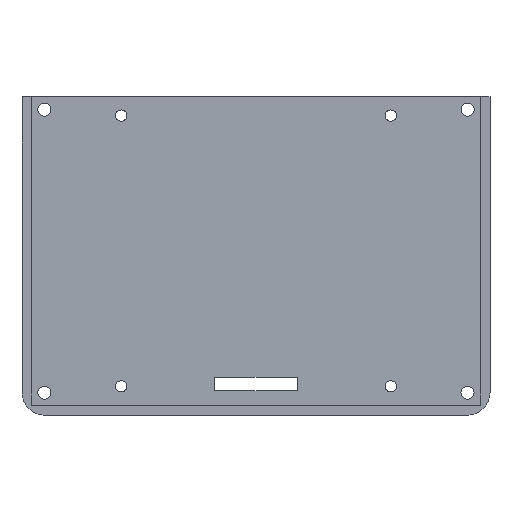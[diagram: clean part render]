
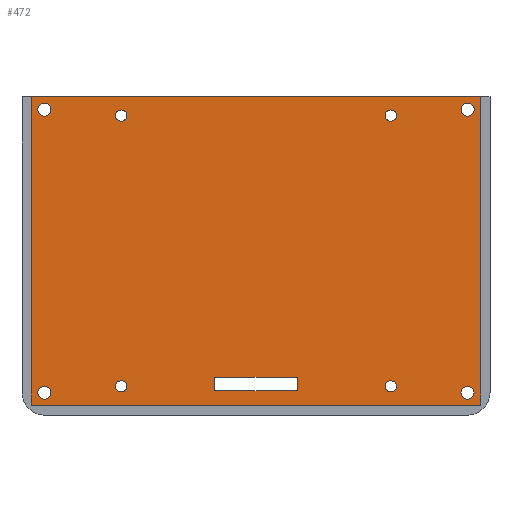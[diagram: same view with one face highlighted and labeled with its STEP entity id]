
A CAD part, top view. The second image highlights one B-rep face of the part: STEP entity #472.
In plain terms, the highlighted planar face has unit normal (0, 0, 1).
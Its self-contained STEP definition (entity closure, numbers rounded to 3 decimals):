
#24=PLANE('',#536);
#44=LINE('',#752,#82);
#47=LINE('',#758,#85);
#50=LINE('',#764,#88);
#53=LINE('',#768,#91);
#55=LINE('',#773,#93);
#58=LINE('',#779,#96);
#60=LINE('',#782,#98);
#61=LINE('',#784,#99);
#82=VECTOR('',#624,10.);
#85=VECTOR('',#629,10.);
#88=VECTOR('',#634,10.);
#91=VECTOR('',#639,10.);
#93=VECTOR('',#643,10.);
#96=VECTOR('',#648,10.);
#98=VECTOR('',#652,10.);
#99=VECTOR('',#655,10.);
#113=FACE_BOUND('',#183,.T.);
#114=FACE_BOUND('',#184,.T.);
#115=FACE_BOUND('',#185,.T.);
#116=FACE_BOUND('',#186,.T.);
#117=FACE_BOUND('',#187,.T.);
#118=FACE_BOUND('',#188,.T.);
#119=FACE_BOUND('',#189,.T.);
#120=FACE_BOUND('',#190,.T.);
#121=FACE_BOUND('',#191,.T.);
#150=FACE_OUTER_BOUND('',#182,.T.);
#182=EDGE_LOOP('',(#393,#394,#395,#396));
#183=EDGE_LOOP('',(#397));
#184=EDGE_LOOP('',(#398));
#185=EDGE_LOOP('',(#399));
#186=EDGE_LOOP('',(#400));
#187=EDGE_LOOP('',(#401));
#188=EDGE_LOOP('',(#402));
#189=EDGE_LOOP('',(#403));
#190=EDGE_LOOP('',(#404));
#191=EDGE_LOOP('',(#405,#406,#407,#408));
#206=CIRCLE('',#499,1.75);
#208=CIRCLE('',#502,1.75);
#210=CIRCLE('',#505,1.75);
#212=CIRCLE('',#508,1.75);
#218=CIRCLE('',#519,1.5);
#220=CIRCLE('',#522,1.5);
#222=CIRCLE('',#525,1.5);
#224=CIRCLE('',#528,1.5);
#226=VERTEX_POINT('',#673);
#228=VERTEX_POINT('',#678);
#230=VERTEX_POINT('',#683);
#232=VERTEX_POINT('',#688);
#248=VERTEX_POINT('',#728);
#250=VERTEX_POINT('',#733);
#252=VERTEX_POINT('',#738);
#254=VERTEX_POINT('',#743);
#257=VERTEX_POINT('',#749);
#258=VERTEX_POINT('',#751);
#260=VERTEX_POINT('',#757);
#262=VERTEX_POINT('',#763);
#263=VERTEX_POINT('',#770);
#264=VERTEX_POINT('',#772);
#265=VERTEX_POINT('',#776);
#266=VERTEX_POINT('',#778);
#270=EDGE_CURVE('',#226,#226,#206,.T.);
#272=EDGE_CURVE('',#228,#228,#208,.T.);
#274=EDGE_CURVE('',#230,#230,#210,.T.);
#276=EDGE_CURVE('',#232,#232,#212,.T.);
#295=EDGE_CURVE('',#248,#248,#218,.T.);
#297=EDGE_CURVE('',#250,#250,#220,.T.);
#299=EDGE_CURVE('',#252,#252,#222,.T.);
#301=EDGE_CURVE('',#254,#254,#224,.T.);
#304=EDGE_CURVE('',#258,#257,#44,.T.);
#307=EDGE_CURVE('',#260,#258,#47,.T.);
#310=EDGE_CURVE('',#262,#260,#50,.T.);
#313=EDGE_CURVE('',#257,#262,#53,.T.);
#315=EDGE_CURVE('',#264,#263,#55,.T.);
#318=EDGE_CURVE('',#266,#265,#58,.T.);
#320=EDGE_CURVE('',#263,#266,#60,.T.);
#321=EDGE_CURVE('',#265,#264,#61,.T.);
#393=ORIENTED_EDGE('',*,*,#320,.T.);
#394=ORIENTED_EDGE('',*,*,#318,.T.);
#395=ORIENTED_EDGE('',*,*,#321,.T.);
#396=ORIENTED_EDGE('',*,*,#315,.T.);
#397=ORIENTED_EDGE('',*,*,#270,.T.);
#398=ORIENTED_EDGE('',*,*,#272,.T.);
#399=ORIENTED_EDGE('',*,*,#274,.T.);
#400=ORIENTED_EDGE('',*,*,#276,.T.);
#401=ORIENTED_EDGE('',*,*,#295,.T.);
#402=ORIENTED_EDGE('',*,*,#297,.T.);
#403=ORIENTED_EDGE('',*,*,#299,.T.);
#404=ORIENTED_EDGE('',*,*,#301,.T.);
#405=ORIENTED_EDGE('',*,*,#310,.T.);
#406=ORIENTED_EDGE('',*,*,#307,.T.);
#407=ORIENTED_EDGE('',*,*,#304,.T.);
#408=ORIENTED_EDGE('',*,*,#313,.T.);
#472=ADVANCED_FACE('',(#150,#113,#114,#115,#116,#117,#118,#119,#120,#121),
#24,.T.);
#499=AXIS2_PLACEMENT_3D('',#674,#547,#548);
#502=AXIS2_PLACEMENT_3D('',#679,#553,#554);
#505=AXIS2_PLACEMENT_3D('',#684,#559,#560);
#508=AXIS2_PLACEMENT_3D('',#689,#565,#566);
#519=AXIS2_PLACEMENT_3D('',#729,#600,#601);
#522=AXIS2_PLACEMENT_3D('',#734,#606,#607);
#525=AXIS2_PLACEMENT_3D('',#739,#612,#613);
#528=AXIS2_PLACEMENT_3D('',#744,#618,#619);
#536=AXIS2_PLACEMENT_3D('',#783,#653,#654);
#547=DIRECTION('center_axis',(0.,0.,-1.));
#548=DIRECTION('ref_axis',(-1.,0.,0.));
#553=DIRECTION('center_axis',(0.,0.,-1.));
#554=DIRECTION('ref_axis',(-1.,0.,0.));
#559=DIRECTION('center_axis',(0.,0.,-1.));
#560=DIRECTION('ref_axis',(-1.,0.,0.));
#565=DIRECTION('center_axis',(0.,0.,-1.));
#566=DIRECTION('ref_axis',(-1.,0.,0.));
#600=DIRECTION('center_axis',(0.,0.,-1.));
#601=DIRECTION('ref_axis',(-1.,0.,0.));
#606=DIRECTION('center_axis',(0.,0.,-1.));
#607=DIRECTION('ref_axis',(-1.,0.,0.));
#612=DIRECTION('center_axis',(0.,0.,-1.));
#613=DIRECTION('ref_axis',(-1.,0.,0.));
#618=DIRECTION('center_axis',(0.,0.,-1.));
#619=DIRECTION('ref_axis',(-1.,0.,0.));
#624=DIRECTION('',(0.,-1.,0.));
#629=DIRECTION('',(1.,0.,0.));
#634=DIRECTION('',(0.,1.,0.));
#639=DIRECTION('',(-1.,0.,0.));
#643=DIRECTION('',(0.,-1.,0.));
#648=DIRECTION('',(0.,1.,0.));
#652=DIRECTION('',(1.,0.,0.));
#653=DIRECTION('center_axis',(0.,0.,1.));
#654=DIRECTION('ref_axis',(1.,0.,0.));
#655=DIRECTION('',(-1.,0.,0.));
#673=CARTESIAN_POINT('',(120.75,5.985,2.));
#674=CARTESIAN_POINT('Origin',(119.,5.985,2.));
#678=CARTESIAN_POINT('',(7.735,5.985,2.));
#679=CARTESIAN_POINT('Origin',(5.985,5.985,2.));
#683=CARTESIAN_POINT('',(7.735,81.585,2.));
#684=CARTESIAN_POINT('Origin',(5.985,81.585,2.));
#688=CARTESIAN_POINT('',(120.765,81.585,2.));
#689=CARTESIAN_POINT('Origin',(119.015,81.585,2.));
#728=CARTESIAN_POINT('',(100.,80.,2.));
#729=CARTESIAN_POINT('Origin',(98.5,80.,2.));
#733=CARTESIAN_POINT('',(28.,80.,2.));
#734=CARTESIAN_POINT('Origin',(26.5,80.,2.));
#738=CARTESIAN_POINT('',(28.,7.7,2.));
#739=CARTESIAN_POINT('Origin',(26.5,7.7,2.));
#743=CARTESIAN_POINT('',(100.,7.7,2.));
#744=CARTESIAN_POINT('Origin',(98.5,7.7,2.));
#749=CARTESIAN_POINT('',(73.5,6.55,2.));
#751=CARTESIAN_POINT('',(73.5,10.05,2.));
#752=CARTESIAN_POINT('',(73.5,26.95,2.));
#757=CARTESIAN_POINT('',(51.5,10.05,2.));
#758=CARTESIAN_POINT('',(57.,10.05,2.));
#763=CARTESIAN_POINT('',(51.5,6.55,2.));
#764=CARTESIAN_POINT('',(51.5,25.2,2.));
#768=CARTESIAN_POINT('',(68.,6.55,2.));
#770=CARTESIAN_POINT('',(2.5,2.7,2.));
#772=CARTESIAN_POINT('',(2.5,85.,2.));
#773=CARTESIAN_POINT('',(2.5,85.,2.));
#776=CARTESIAN_POINT('',(122.5,85.,2.));
#778=CARTESIAN_POINT('',(122.5,2.7,2.));
#779=CARTESIAN_POINT('',(122.5,2.7,2.));
#782=CARTESIAN_POINT('',(2.5,2.7,2.));
#783=CARTESIAN_POINT('Origin',(62.5,43.85,2.));
#784=CARTESIAN_POINT('',(122.5,85.,2.));
